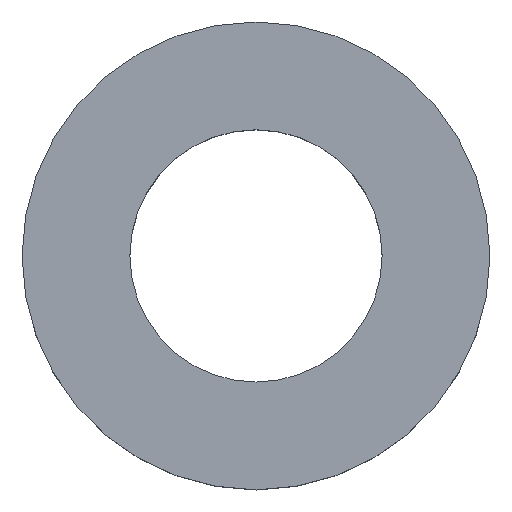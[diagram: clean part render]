
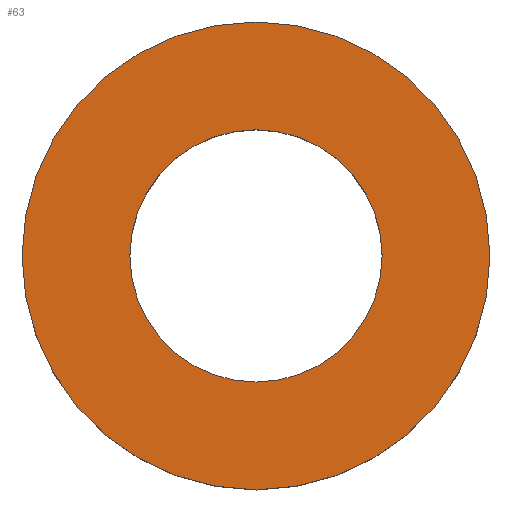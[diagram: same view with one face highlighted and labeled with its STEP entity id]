
A CAD part, top view. The second image highlights one B-rep face of the part: STEP entity #63.
In plain terms, the highlighted planar face has unit normal (0, 0, 1).
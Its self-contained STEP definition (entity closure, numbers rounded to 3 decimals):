
#15=FACE_BOUND('',#26,.T.);
#17=PLANE('',#94);
#21=FACE_OUTER_BOUND('',#25,.T.);
#25=EDGE_LOOP('',(#55));
#26=EDGE_LOOP('',(#56));
#34=CIRCLE('',#90,3.1);
#36=CIRCLE('',#93,5.75);
#38=VERTEX_POINT('',#120);
#40=VERTEX_POINT('',#126);
#43=EDGE_CURVE('',#38,#38,#34,.T.);
#46=EDGE_CURVE('',#40,#40,#36,.T.);
#55=ORIENTED_EDGE('',*,*,#46,.T.);
#56=ORIENTED_EDGE('',*,*,#43,.T.);
#63=ADVANCED_FACE('',(#21,#15),#17,.T.);
#90=AXIS2_PLACEMENT_3D('',#122,#103,#104);
#93=AXIS2_PLACEMENT_3D('',#128,#110,#111);
#94=AXIS2_PLACEMENT_3D('',#129,#112,#113);
#103=DIRECTION('center_axis',(0.,0.,-1.));
#104=DIRECTION('ref_axis',(-1.,0.,0.));
#110=DIRECTION('center_axis',(0.,0.,1.));
#111=DIRECTION('ref_axis',(1.,0.,0.));
#112=DIRECTION('center_axis',(0.,0.,1.));
#113=DIRECTION('ref_axis',(1.,0.,0.));
#120=CARTESIAN_POINT('',(3.1,0.,0.));
#122=CARTESIAN_POINT('Origin',(0.,0.,0.));
#126=CARTESIAN_POINT('',(-5.75,0.,0.));
#128=CARTESIAN_POINT('Origin',(0.,0.,0.));
#129=CARTESIAN_POINT('Origin',(0.,0.,0.));
